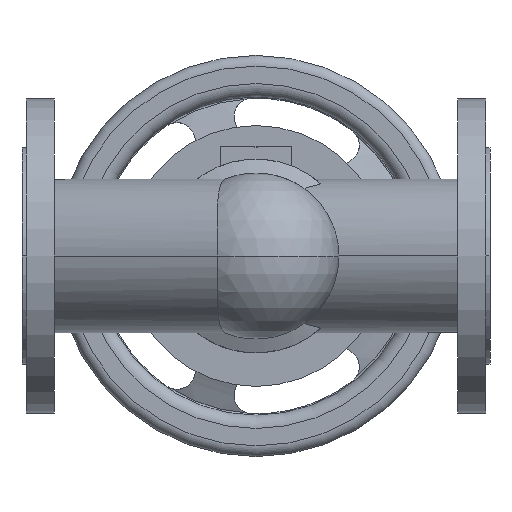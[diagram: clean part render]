
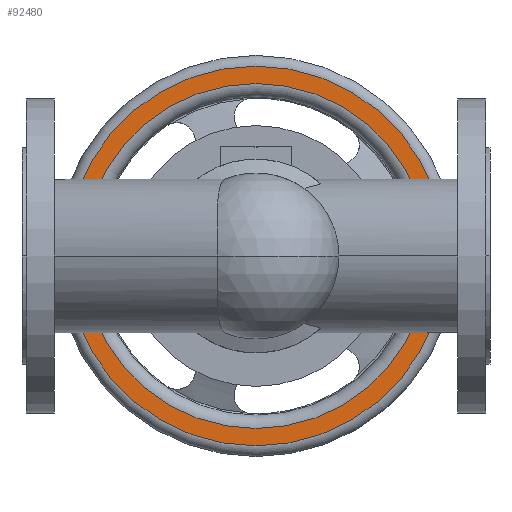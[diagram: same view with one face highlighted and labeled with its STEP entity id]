
A CAD part, front view. The second image highlights one B-rep face of the part: STEP entity #92480.
In plain terms, the highlighted planar face has unit normal (0, -1, 0).
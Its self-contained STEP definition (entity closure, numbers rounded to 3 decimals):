
#91820=CARTESIAN_POINT('',(317.,405.3,0.));
#91830=VERTEX_POINT('',#91820);
#91930=CARTESIAN_POINT('',(33.,405.3,0.));
#91940=VERTEX_POINT('',#91930);
#91970=CARTESIAN_POINT('',(175.,405.3,0.));
#91980=DIRECTION('',(0.,1.,0.));
#91990=DIRECTION('',(-1.,0.,0.));
#92000=AXIS2_PLACEMENT_3D('',#91970,#91980,#91990);
#92010=CIRCLE('',#92000,142.);
#92020=CARTESIAN_POINT('',(175.,405.3,-142.));
#92030=VERTEX_POINT('',#92020);
#92040=EDGE_CURVE('',#92030,#91940,#92010,.T.);
#92060=EDGE_CURVE('',#91830,#92030,#92010,.T.);
#92180=CARTESIAN_POINT('',(39.5,405.3,0.))
;
#92190=DIRECTION('',(0.,-1.,0.));
#92200=DIRECTION('',(1.,0.,0.));
#92210=AXIS2_PLACEMENT_3D('',#92180,#92190,#92200);
#92220=PLANE('',#92210);
#92230=ORIENTED_EDGE('',*,*,#92040,.F.);
#92240=EDGE_CURVE('',#91940,#91830,#92010,.T.);
#92250=ORIENTED_EDGE('',*,*,#92240,.F.);
#92260=ORIENTED_EDGE('',*,*,#92060,.F.);
#92270=EDGE_LOOP('',(#92260,#92250,#92230));
#92280=FACE_OUTER_BOUND('',#92270,.T.);
#92290=CARTESIAN_POINT('',(175.,405.3,0.));
#92300=DIRECTION('',(0.,1.,0.));
#92310=DIRECTION('',(-1.,0.,0.));
#92320=AXIS2_PLACEMENT_3D('',#92290,#92300,#92310);
#92330=CIRCLE('',#92320,129.);
#92340=CARTESIAN_POINT('',(304.,405.3,0.));
#92350=VERTEX_POINT('',#92340);
#92360=CARTESIAN_POINT('',(46.,405.3,0.));
#92370=VERTEX_POINT('',#92360);
#92380=EDGE_CURVE('',#92350,#92370,#92330,.T.);
#92390=ORIENTED_EDGE('',*,*,#92380,.T.);
#92400=CARTESIAN_POINT('',(175.,405.3,129.));
#92410=VERTEX_POINT('',#92400);
#92420=EDGE_CURVE('',#92410,#92350,#92330,.T.);
#92430=ORIENTED_EDGE('',*,*,#92420,.T.);
#92440=EDGE_CURVE('',#92370,#92410,#92330,.T.);
#92450=ORIENTED_EDGE('',*,*,#92440,.T.);
#92460=EDGE_LOOP('',(#92450,#92430,#92390));
#92470=FACE_BOUND('',#92460,.T.);
#92480=ADVANCED_FACE('',(#92280,#92470),#92220,.T.);
